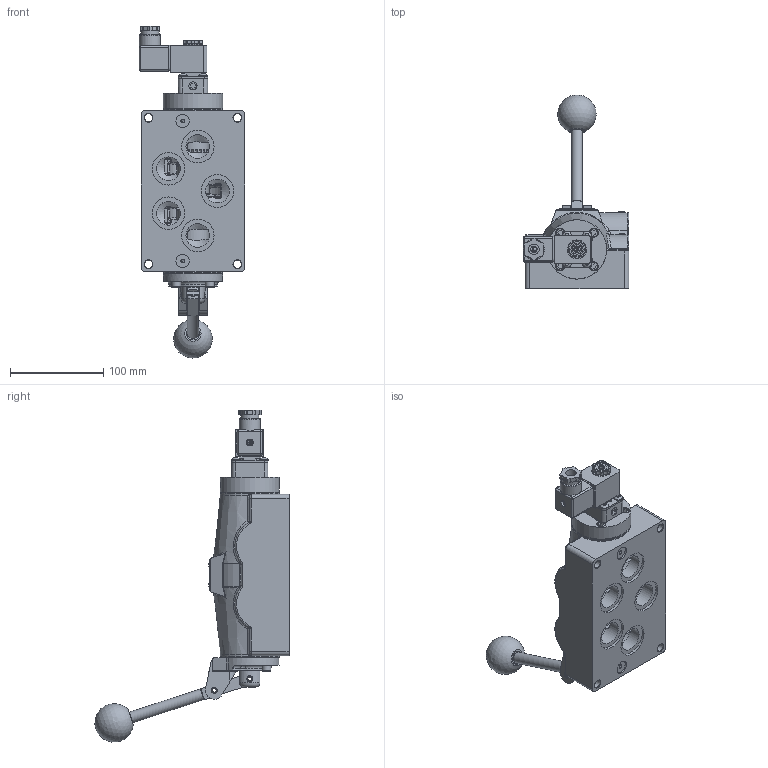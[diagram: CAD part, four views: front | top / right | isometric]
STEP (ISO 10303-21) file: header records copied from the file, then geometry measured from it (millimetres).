
FILE_DESCRIPTION(/* description */ (''),/* implementation_level */ '2;1');
FILE_NAME(/* name */ 'D:\Engineering\Product\valves\Assembly\Standard\ESAH\stp\ESAH8PA.stp',/* time_stamp */ '2021-04-05T16:38:42-04:00',/* author */ ('RMcKenna'),/* organization */ (''),/* preprocessor_version */ 'ST-DEVELOPER v18.1',/* originating_system */ 'Autodesk Inventor 2021',/* authorisation */ '');
FILE_SCHEMA (('AUTOMOTIVE_DESIGN { 1 0 10303 214 3 1 1 }'));
Products named in the file (1): Part10
Bounding box: 113.22 x 208.04 x 355.86 mm (x, y, z)
Volume: 1273737 mm3; surface area: 238170.6 mm2
Topology: 1 solids, 37 shells, 2650 faces, 6740 edges, 4282 vertices
Faces by surface type: plane 1057, cylinder 696, cone 368, bspline 255, torus 200, sphere 74
Full cylindrical faces by diameter (mm): 1.3 x1, 1.397 x1, 1.5 x2, 1.651 x1, 2.032 x8, 2.07 x2, 2.261 x2, 2.35 x4, 2.388 x1, 2.5 x1, 2.778 x2, 2.8 x1, 2.819 x1, 2.845 x2, 3 x4, 3.048 x3, 3.175 x2, 3.4 x1, 3.683 x5, 3.962 x4, 3.988 x1, 4.064 x1, 4.191 x2, 4.305 x1, 4.826 x4, 4.953 x1, 4.978 x9, 5.15 x4, 5.156 x4, 5.385 x1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
Entity records: 104182 total; most frequent: CARTESIAN_POINT 38393, ORIENTED_EDGE 13380, DIRECTION 12959, EDGE_CURVE 6690, AXIS2_PLACEMENT_3D 5042, VERTEX_POINT 4281, EDGE_LOOP 2935, LINE 2875
